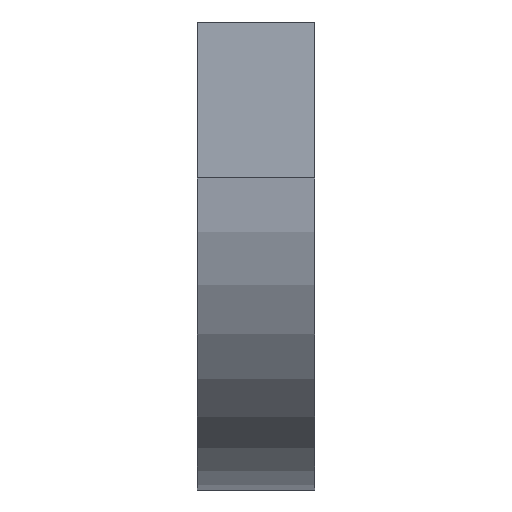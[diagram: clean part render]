
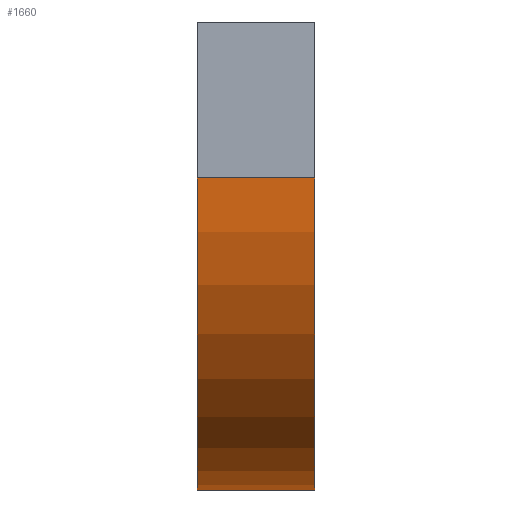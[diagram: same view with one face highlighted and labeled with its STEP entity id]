
A CAD part, left-side view. The second image highlights one B-rep face of the part: STEP entity #1660.
In plain terms, the highlighted cylindrical face has radius 300 mm (diameter 600 mm), a partial arc.
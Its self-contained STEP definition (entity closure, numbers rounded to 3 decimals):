
#96 = DIRECTION ( 'NONE',  ( 0., 0., -1. ) ) ;
#165 = EDGE_LOOP ( 'NONE', ( #483, #169, #814, #1634 ) ) ;
#169 = ORIENTED_EDGE ( 'NONE', *, *, #1311, .F. ) ;
#227 = DIRECTION ( 'NONE',  ( -1., 0., 0. ) ) ;
#370 = AXIS2_PLACEMENT_3D ( 'NONE', #1034, #490, #1220 ) ;
#390 = AXIS2_PLACEMENT_3D ( 'NONE', #1816, #1390, #227 ) ;
#481 = CARTESIAN_POINT ( 'NONE',  ( 300., 112.5, -450. ) ) ;
#483 = ORIENTED_EDGE ( 'NONE', *, *, #879, .F. ) ;
#487 = CIRCLE ( 'NONE', #390, 300. ) ;
#488 = FACE_OUTER_BOUND ( 'NONE', #165, .T. ) ;
#490 = DIRECTION ( 'NONE',  ( 0., -1., 0. ) ) ;
#571 = VECTOR ( 'NONE', #1205, 1000. ) ;
#653 = DIRECTION ( 'NONE',  ( 0., -1., 0. ) ) ;
#659 = CARTESIAN_POINT ( 'NONE',  ( 300., 0., -150. ) ) ;
#763 = VERTEX_POINT ( 'NONE', #1556 ) ;
#779 = CARTESIAN_POINT ( 'NONE',  ( 0., 0., -150. ) ) ;
#814 = ORIENTED_EDGE ( 'NONE', *, *, #1381, .T. ) ;
#843 = AXIS2_PLACEMENT_3D ( 'NONE', #659, #653, #96 ) ;
#879 = EDGE_CURVE ( 'NONE', #1412, #1487, #1194, .T. ) ;
#906 = LINE ( 'NONE', #779, #571 ) ;
#955 = VECTOR ( 'NONE', #1474, 1000. ) ;
#1034 = CARTESIAN_POINT ( 'NONE',  ( 300., 0., -150. ) ) ;
#1074 = CYLINDRICAL_SURFACE ( 'NONE', #843, 300. ) ;
#1194 = CIRCLE ( 'NONE', #370, 300. ) ;
#1205 = DIRECTION ( 'NONE',  ( 0., -1., 0. ) ) ;
#1220 = DIRECTION ( 'NONE',  ( -1., 0., 0. ) ) ;
#1284 = CARTESIAN_POINT ( 'NONE',  ( 300., 0., -450. ) ) ;
#1311 = EDGE_CURVE ( 'NONE', #763, #1412, #906, .T. ) ;
#1336 = EDGE_CURVE ( 'NONE', #1351, #1487, #1486, .T. ) ;
#1351 = VERTEX_POINT ( 'NONE', #481 ) ;
#1381 = EDGE_CURVE ( 'NONE', #763, #1351, #487, .T. ) ;
#1390 = DIRECTION ( 'NONE',  ( 0., -1., 0. ) ) ;
#1412 = VERTEX_POINT ( 'NONE', #1705 ) ;
#1474 = DIRECTION ( 'NONE',  ( 0., -1., 0. ) ) ;
#1486 = LINE ( 'NONE', #1497, #955 ) ;
#1487 = VERTEX_POINT ( 'NONE', #1284 ) ;
#1497 = CARTESIAN_POINT ( 'NONE',  ( 300., 0., -450. ) ) ;
#1556 = CARTESIAN_POINT ( 'NONE',  ( 0., 112.5, -150. ) ) ;
#1634 = ORIENTED_EDGE ( 'NONE', *, *, #1336, .T. ) ;
#1660 = ADVANCED_FACE ( 'NONE', ( #488 ), #1074, .T. ) ;
#1705 = CARTESIAN_POINT ( 'NONE',  ( 0., 0., -150. ) ) ;
#1816 = CARTESIAN_POINT ( 'NONE',  ( 300., 112.5, -150. ) ) ;
